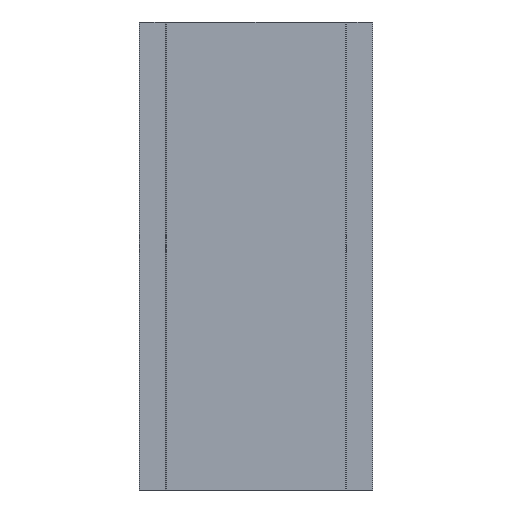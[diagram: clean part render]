
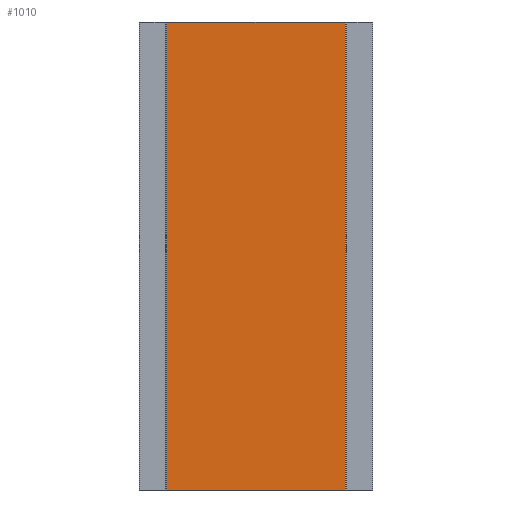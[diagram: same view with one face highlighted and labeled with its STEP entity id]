
A CAD part, front view. The second image highlights one B-rep face of the part: STEP entity #1010.
In plain terms, the highlighted planar face has unit normal (0, -1, 0).
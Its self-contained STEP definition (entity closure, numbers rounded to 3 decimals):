
#129 = AXIS2_PLACEMENT_3D ( 'NONE', #1168, #670, #1841 ) ;
#131 = EDGE_LOOP ( 'NONE', ( #2033, #1947, #357, #1110 ) ) ;
#192 = CARTESIAN_POINT ( 'NONE',  ( 311.071, 67.849, 200. ) ) ;
#333 = PLANE ( 'NONE',  #129 ) ;
#350 = DIRECTION ( 'NONE',  ( 1., 0., 0. ) ) ;
#357 = ORIENTED_EDGE ( 'NONE', *, *, #2117, .F. ) ;
#516 = CARTESIAN_POINT ( 'NONE',  ( 311.071, 67.849, 200. ) ) ;
#653 = VERTEX_POINT ( 'NONE', #1152 ) ;
#670 = DIRECTION ( 'NONE',  ( 0., 1., 0. ) ) ;
#726 = VERTEX_POINT ( 'NONE', #1179 ) ;
#772 = VERTEX_POINT ( 'NONE', #1245 ) ;
#862 = DIRECTION ( 'NONE',  ( 0., 0., -1. ) ) ;
#985 = EDGE_CURVE ( 'NONE', #1719, #726, #1605, .T. ) ;
#997 = CARTESIAN_POINT ( 'NONE',  ( 387.471, 67.849, 200. ) ) ;
#1010 = ADVANCED_FACE ( 'NONE', ( #1552 ), #333, .F. ) ;
#1102 = CARTESIAN_POINT ( 'NONE',  ( 387.471, 67.849, 200. ) ) ;
#1110 = ORIENTED_EDGE ( 'NONE', *, *, #2090, .T. ) ;
#1152 = CARTESIAN_POINT ( 'NONE',  ( 311.071, 67.849, 0. ) ) ;
#1168 = CARTESIAN_POINT ( 'NONE',  ( 311.071, 67.849, 200. ) ) ;
#1179 = CARTESIAN_POINT ( 'NONE',  ( 387.471, 67.849, 0. ) ) ;
#1221 = VECTOR ( 'NONE', #2169, 1000. ) ;
#1245 = CARTESIAN_POINT ( 'NONE',  ( 311.071, 67.849, 200. ) ) ;
#1355 = CARTESIAN_POINT ( 'NONE',  ( 311.071, 67.849, 0. ) ) ;
#1467 = VECTOR ( 'NONE', #862, 1000. ) ;
#1533 = DIRECTION ( 'NONE',  ( 1., 0., 0. ) ) ;
#1552 = FACE_OUTER_BOUND ( 'NONE', #131, .T. ) ;
#1567 = LINE ( 'NONE', #516, #1467 ) ;
#1605 = LINE ( 'NONE', #997, #1221 ) ;
#1719 = VERTEX_POINT ( 'NONE', #1102 ) ;
#1841 = DIRECTION ( 'NONE',  ( 0., 0., 1. ) ) ;
#1863 = VECTOR ( 'NONE', #1533, 1000. ) ;
#1914 = LINE ( 'NONE', #192, #1863 ) ;
#1947 = ORIENTED_EDGE ( 'NONE', *, *, #985, .F. ) ;
#2029 = LINE ( 'NONE', #1355, #2126 ) ;
#2033 = ORIENTED_EDGE ( 'NONE', *, *, #2053, .T. ) ;
#2053 = EDGE_CURVE ( 'NONE', #653, #726, #2029, .T. ) ;
#2090 = EDGE_CURVE ( 'NONE', #772, #653, #1567, .T. ) ;
#2117 = EDGE_CURVE ( 'NONE', #772, #1719, #1914, .T. ) ;
#2126 = VECTOR ( 'NONE', #350, 1000. ) ;
#2169 = DIRECTION ( 'NONE',  ( 0., 0., -1. ) ) ;
